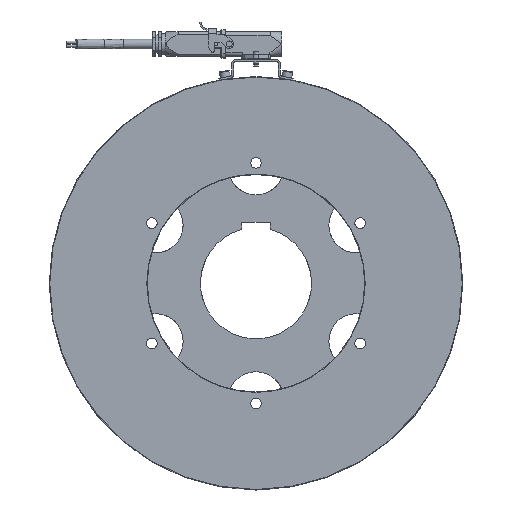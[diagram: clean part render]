
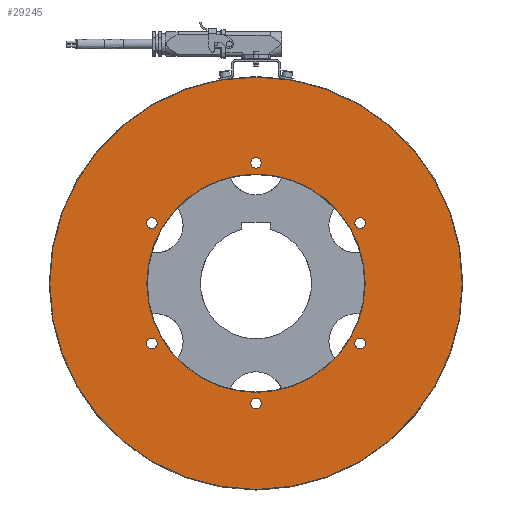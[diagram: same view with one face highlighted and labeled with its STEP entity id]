
A CAD part, left-side view. The second image highlights one B-rep face of the part: STEP entity #29245.
In plain terms, the highlighted planar face has unit normal (-1, 0, 0).
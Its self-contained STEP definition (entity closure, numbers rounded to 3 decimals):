
#288=FACE_BOUND('',#3318,.T.);
#289=FACE_BOUND('',#3319,.T.);
#290=FACE_BOUND('',#3320,.T.);
#291=FACE_BOUND('',#3321,.T.);
#292=FACE_BOUND('',#3322,.T.);
#293=FACE_BOUND('',#3323,.T.);
#294=FACE_BOUND('',#3324,.T.);
#548=PLANE('',#31283);
#1760=FACE_OUTER_BOUND('',#3317,.T.);
#3317=EDGE_LOOP('',(#19970,#19971,#19972));
#3318=EDGE_LOOP('',(#19973,#19974));
#3319=EDGE_LOOP('',(#19975,#19976));
#3320=EDGE_LOOP('',(#19977,#19978));
#3321=EDGE_LOOP('',(#19979,#19980));
#3322=EDGE_LOOP('',(#19981,#19982));
#3323=EDGE_LOOP('',(#19983,#19984));
#3324=EDGE_LOOP('',(#19985));
#4762=CIRCLE('',#30536,204.);
#4763=CIRCLE('',#30537,204.);
#5262=CIRCLE('',#31284,204.);
#5263=CIRCLE('',#31285,5.25);
#5264=CIRCLE('',#31286,5.25);
#5265=CIRCLE('',#31287,5.25);
#5266=CIRCLE('',#31288,5.25);
#5267=CIRCLE('',#31289,5.25);
#5268=CIRCLE('',#31290,5.25);
#5269=CIRCLE('',#31291,5.25);
#5270=CIRCLE('',#31292,5.25);
#5271=CIRCLE('',#31293,5.25);
#5272=CIRCLE('',#31294,5.25);
#5273=CIRCLE('',#31295,5.25);
#5274=CIRCLE('',#31296,5.25);
#5275=CIRCLE('',#31297,108.);
#11316=VERTEX_POINT('',#42165);
#11323=VERTEX_POINT('',#42179);
#11324=VERTEX_POINT('',#42181);
#11868=VERTEX_POINT('',#44088);
#11869=VERTEX_POINT('',#44089);
#11870=VERTEX_POINT('',#44092);
#11871=VERTEX_POINT('',#44093);
#11872=VERTEX_POINT('',#44096);
#11873=VERTEX_POINT('',#44097);
#11874=VERTEX_POINT('',#44100);
#11875=VERTEX_POINT('',#44101);
#11876=VERTEX_POINT('',#44104);
#11877=VERTEX_POINT('',#44105);
#11878=VERTEX_POINT('',#44108);
#11879=VERTEX_POINT('',#44109);
#11880=VERTEX_POINT('',#44112);
#14174=EDGE_CURVE('',#11324,#11323,#4762,.T.);
#14175=EDGE_CURVE('',#11316,#11324,#4763,.T.);
#14993=EDGE_CURVE('',#11323,#11316,#5262,.T.);
#14994=EDGE_CURVE('',#11868,#11869,#5263,.T.);
#14995=EDGE_CURVE('',#11869,#11868,#5264,.T.);
#14996=EDGE_CURVE('',#11870,#11871,#5265,.T.);
#14997=EDGE_CURVE('',#11871,#11870,#5266,.T.);
#14998=EDGE_CURVE('',#11872,#11873,#5267,.T.);
#14999=EDGE_CURVE('',#11873,#11872,#5268,.T.);
#15000=EDGE_CURVE('',#11874,#11875,#5269,.T.);
#15001=EDGE_CURVE('',#11875,#11874,#5270,.T.);
#15002=EDGE_CURVE('',#11876,#11877,#5271,.T.);
#15003=EDGE_CURVE('',#11877,#11876,#5272,.T.);
#15004=EDGE_CURVE('',#11878,#11879,#5273,.T.);
#15005=EDGE_CURVE('',#11879,#11878,#5274,.T.);
#15006=EDGE_CURVE('',#11880,#11880,#5275,.T.);
#19970=ORIENTED_EDGE('',*,*,#14174,.T.);
#19971=ORIENTED_EDGE('',*,*,#14993,.T.);
#19972=ORIENTED_EDGE('',*,*,#14175,.T.);
#19973=ORIENTED_EDGE('',*,*,#14994,.T.);
#19974=ORIENTED_EDGE('',*,*,#14995,.T.);
#19975=ORIENTED_EDGE('',*,*,#14996,.T.);
#19976=ORIENTED_EDGE('',*,*,#14997,.T.);
#19977=ORIENTED_EDGE('',*,*,#14998,.T.);
#19978=ORIENTED_EDGE('',*,*,#14999,.T.);
#19979=ORIENTED_EDGE('',*,*,#15000,.T.);
#19980=ORIENTED_EDGE('',*,*,#15001,.T.);
#19981=ORIENTED_EDGE('',*,*,#15002,.T.);
#19982=ORIENTED_EDGE('',*,*,#15003,.T.);
#19983=ORIENTED_EDGE('',*,*,#15004,.T.);
#19984=ORIENTED_EDGE('',*,*,#15005,.T.);
#19985=ORIENTED_EDGE('',*,*,#15006,.F.);
#29245=ADVANCED_FACE('',(#1760,#288,#289,#290,#291,#292,#293,#294),#548,
 .T.);
#30536=AXIS2_PLACEMENT_3D('',#42182,#33591,#33592);
#30537=AXIS2_PLACEMENT_3D('',#42183,#33593,#33594);
#31283=AXIS2_PLACEMENT_3D('',#44086,#35355,#35356);
#31284=AXIS2_PLACEMENT_3D('',#44087,#35357,#35358);
#31285=AXIS2_PLACEMENT_3D('',#44090,#35359,#35360);
#31286=AXIS2_PLACEMENT_3D('',#44091,#35361,#35362);
#31287=AXIS2_PLACEMENT_3D('',#44094,#35363,#35364);
#31288=AXIS2_PLACEMENT_3D('',#44095,#35365,#35366);
#31289=AXIS2_PLACEMENT_3D('',#44098,#35367,#35368);
#31290=AXIS2_PLACEMENT_3D('',#44099,#35369,#35370);
#31291=AXIS2_PLACEMENT_3D('',#44102,#35371,#35372);
#31292=AXIS2_PLACEMENT_3D('',#44103,#35373,#35374);
#31293=AXIS2_PLACEMENT_3D('',#44106,#35375,#35376);
#31294=AXIS2_PLACEMENT_3D('',#44107,#35377,#35378);
#31295=AXIS2_PLACEMENT_3D('',#44110,#35379,#35380);
#31296=AXIS2_PLACEMENT_3D('',#44111,#35381,#35382);
#31297=AXIS2_PLACEMENT_3D('',#44113,#35383,#35384);
#33591=DIRECTION('center_axis',(-1.,0.,0.));
#33592=DIRECTION('ref_axis',(0.,1.,0.));
#33593=DIRECTION('center_axis',(-1.,0.,0.));
#33594=DIRECTION('ref_axis',(0.,1.,0.));
#35355=DIRECTION('center_axis',(-1.,0.,0.));
#35356=DIRECTION('ref_axis',(0.,0.,
1.));
#35357=DIRECTION('center_axis',(-1.,0.,0.));
#35358=DIRECTION('ref_axis',(0.,1.,0.));
#35359=DIRECTION('center_axis',(1.,0.,0.));
#35360=DIRECTION('ref_axis',(0.,1.,0.));
#35361=DIRECTION('center_axis',(1.,0.,0.));
#35362=DIRECTION('ref_axis',(0.,1.,0.));
#35363=DIRECTION('center_axis',(1.,0.,0.));
#35364=DIRECTION('ref_axis',(0.,1.,0.));
#35365=DIRECTION('center_axis',(1.,0.,0.));
#35366=DIRECTION('ref_axis',(0.,1.,0.));
#35367=DIRECTION('center_axis',(1.,0.,0.));
#35368=DIRECTION('ref_axis',(0.,1.,0.));
#35369=DIRECTION('center_axis',(1.,0.,0.));
#35370=DIRECTION('ref_axis',(0.,1.,0.));
#35371=DIRECTION('center_axis',(1.,0.,0.));
#35372=DIRECTION('ref_axis',(0.,1.,0.));
#35373=DIRECTION('center_axis',(1.,0.,0.));
#35374=DIRECTION('ref_axis',(0.,1.,0.));
#35375=DIRECTION('center_axis',(1.,0.,0.));
#35376=DIRECTION('ref_axis',(0.,1.,0.));
#35377=DIRECTION('center_axis',(1.,0.,0.));
#35378=DIRECTION('ref_axis',(0.,1.,0.));
#35379=DIRECTION('center_axis',(1.,0.,0.));
#35380=DIRECTION('ref_axis',(0.,1.,0.));
#35381=DIRECTION('center_axis',(1.,0.,0.));
#35382=DIRECTION('ref_axis',(0.,1.,0.));
#35383=DIRECTION('center_axis',(-1.,0.,0.));
#35384=DIRECTION('ref_axis',(0.,-1.,0.));
#42165=CARTESIAN_POINT('',(-25.65,35.424,200.901));
#42179=CARTESIAN_POINT('',(-25.65,-204.,0.));
#42181=CARTESIAN_POINT('',(-25.65,204.,0.));
#42182=CARTESIAN_POINT('Origin',(-25.65,0.,
0.));
#42183=CARTESIAN_POINT('Origin',(-25.65,0.,
0.));
#44086=CARTESIAN_POINT('Origin',(-25.65,155.75,0.));
#44087=CARTESIAN_POINT('Origin',(-25.65,0.,
0.));
#44088=CARTESIAN_POINT('',(-25.65,-97.807,-59.5));
#44089=CARTESIAN_POINT('',(-25.65,-108.307,-59.5));
#44090=CARTESIAN_POINT('Origin',(-25.65,-103.057,-59.5));
#44091=CARTESIAN_POINT('Origin',(-25.65,-103.057,-59.5));
#44092=CARTESIAN_POINT('',(-25.65,108.307,-59.5));
#44093=CARTESIAN_POINT('',(-25.65,97.807,-59.5));
#44094=CARTESIAN_POINT('Origin',(-25.65,103.057,-59.5));
#44095=CARTESIAN_POINT('Origin',(-25.65,103.057,-59.5));
#44096=CARTESIAN_POINT('',(-25.65,5.25,119.));
#44097=CARTESIAN_POINT('',(-25.65,-5.25,119.));
#44098=CARTESIAN_POINT('Origin',(-25.65,0.,119.));
#44099=CARTESIAN_POINT('Origin',(-25.65,0.,119.));
#44100=CARTESIAN_POINT('',(-25.65,108.307,59.5));
#44101=CARTESIAN_POINT('',(-25.65,97.807,59.5));
#44102=CARTESIAN_POINT('Origin',(-25.65,103.057,59.5));
#44103=CARTESIAN_POINT('Origin',(-25.65,103.057,59.5));
#44104=CARTESIAN_POINT('',(-25.65,5.25,-119.));
#44105=CARTESIAN_POINT('',(-25.65,-5.25,-119.));
#44106=CARTESIAN_POINT('Origin',(-25.65,0.,-119.));
#44107=CARTESIAN_POINT('Origin',(-25.65,0.,-119.));
#44108=CARTESIAN_POINT('',(-25.65,-97.807,59.5));
#44109=CARTESIAN_POINT('',(-25.65,-108.307,59.5));
#44110=CARTESIAN_POINT('Origin',(-25.65,-103.057,59.5));
#44111=CARTESIAN_POINT('Origin',(-25.65,-103.057,59.5));
#44112=CARTESIAN_POINT('',(-25.65,108.,0.));
#44113=CARTESIAN_POINT('Origin',(-25.65,0.,0.));
